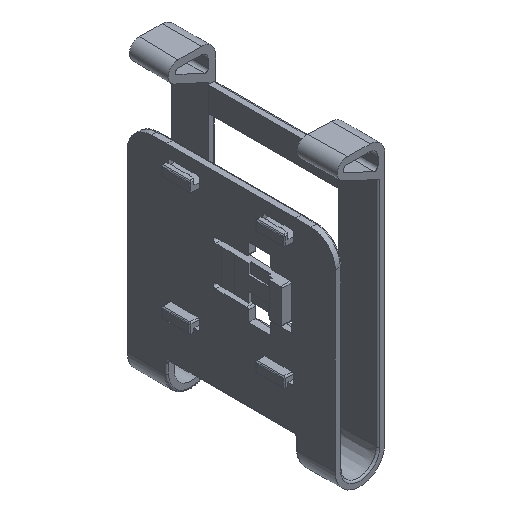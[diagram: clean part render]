
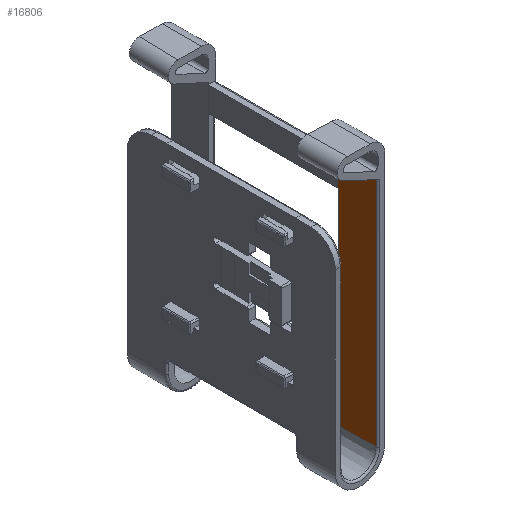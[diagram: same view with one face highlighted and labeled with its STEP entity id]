
A CAD part, isometric view. The second image highlights one B-rep face of the part: STEP entity #16806.
In plain terms, the highlighted planar face has unit normal (-1, -0.018, 0).
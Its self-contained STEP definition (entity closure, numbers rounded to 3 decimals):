
#5660=DIRECTION('',(0.,0.,1.));
#5661=VECTOR('',#5660,83.);
#5662=CARTESIAN_POINT('',(17.004,-26.297,-49.));
#5663=LINE('',#5662,#5661);
#5679=CARTESIAN_POINT('',(17.004,-26.297,-49.));
#5732=DIRECTION('',(0.,0.,1.));
#5733=VECTOR('',#5732,0.756);
#5734=CARTESIAN_POINT('',(17.004,-26.297,44.));
#5735=LINE('',#5734,#5733);
#6597=DIRECTION('',(0.017,-1.,0.));
#6598=VECTOR('',#6597,0.244);
#6599=CARTESIAN_POINT('',(17.,-26.052,44.));
#6600=LINE('',#6599,#6598);
#6636=DIRECTION('',(0.,0.,-1.));
#6637=VECTOR('',#6636,93.779);
#6638=CARTESIAN_POINT('',(17.266,-41.263,44.779));
#6639=LINE('',#6638,#6637);
#6643=DIRECTION('',(-0.017,1.,0.));
#6644=VECTOR('',#6643,14.969);
#6645=CARTESIAN_POINT('',(17.266,-41.263,
-49.));
#6646=LINE('',#6645,#6644);
#6650=DIRECTION('',(0.017,-1.,0.));
#6651=VECTOR('',#6650,0.244);
#6652=CARTESIAN_POINT('',(17.,-26.052,34.));
#6653=LINE('',#6652,#6651);
#6657=DIRECTION('',(0.,0.,1.));
#6658=VECTOR('',#6657,10.);
#6659=CARTESIAN_POINT('',(17.,-26.052,34.));
#6660=LINE('',#6659,#6658);
#6710=DIRECTION('',(-0.017,1.,-0.001));
#6711=VECTOR('',#6710,14.969);
#6712=CARTESIAN_POINT('',(17.266,-41.263,44.779));
#6713=LINE('',#6712,#6711);
#11231=CARTESIAN_POINT('',(17.,-26.052,34.));
#11232=CARTESIAN_POINT('',(17.,-26.052,44.));
#11233=VERTEX_POINT('',#11231);
#11234=VERTEX_POINT('',#11232);
#11235=CARTESIAN_POINT('',(17.004,-26.297,
34.));
#11236=VERTEX_POINT('',#11235);
#11237=CARTESIAN_POINT('',(17.004,-26.297,
44.));
#11238=VERTEX_POINT('',#11237);
#11444=VERTEX_POINT('',#5679);
#11952=CARTESIAN_POINT('',(17.266,-41.263,-49.));
#11953=VERTEX_POINT('',#11952);
#12587=CARTESIAN_POINT('',(17.004,-26.297,
44.756));
#12588=VERTEX_POINT('',#12587);
#12591=CARTESIAN_POINT('',(17.266,-41.263,
44.779));
#12592=VERTEX_POINT('',#12591);
#16787=CARTESIAN_POINT('',(17.,-26.052,-49.));
#16788=DIRECTION('',(1.,0.017,0.));
#16789=DIRECTION('',(0.,0.,1.));
#16790=AXIS2_PLACEMENT_3D('',#16787,#16788,#16789);
#16791=PLANE('',#16790);
#16793=ORIENTED_EDGE('',*,*,#16792,.T.);
#16795=ORIENTED_EDGE('',*,*,#16794,.T.);
#16796=ORIENTED_EDGE('',*,*,#15916,.T.);
#16797=ORIENTED_EDGE('',*,*,#16542,.F.);
#16799=ORIENTED_EDGE('',*,*,#16798,.T.);
#16800=ORIENTED_EDGE('',*,*,#16766,.T.);
#16801=ORIENTED_EDGE('',*,*,#15935,.T.);
#16803=ORIENTED_EDGE('',*,*,#16802,.F.);
#16804=EDGE_LOOP('',(#16793,#16795,#16796,#16797,#16799,#16800,#16801,#16803));
#16805=FACE_OUTER_BOUND('',#16804,.F.);
#15916=EDGE_CURVE('',#11444,#11236,#5663,.T.);
#15935=EDGE_CURVE('',#11238,#12588,#5735,.T.);
#16542=EDGE_CURVE('',#11233,#11236,#6653,.T.);
#16766=EDGE_CURVE('',#11234,#11238,#6600,.T.);
#16792=EDGE_CURVE('',#12592,#11953,#6639,.T.);
#16794=EDGE_CURVE('',#11953,#11444,#6646,.T.);
#16798=EDGE_CURVE('',#11233,#11234,#6660,.T.);
#16802=EDGE_CURVE('',#12592,#12588,#6713,.T.);
#16806=ADVANCED_FACE('',(#16805),#16791,.F.);
